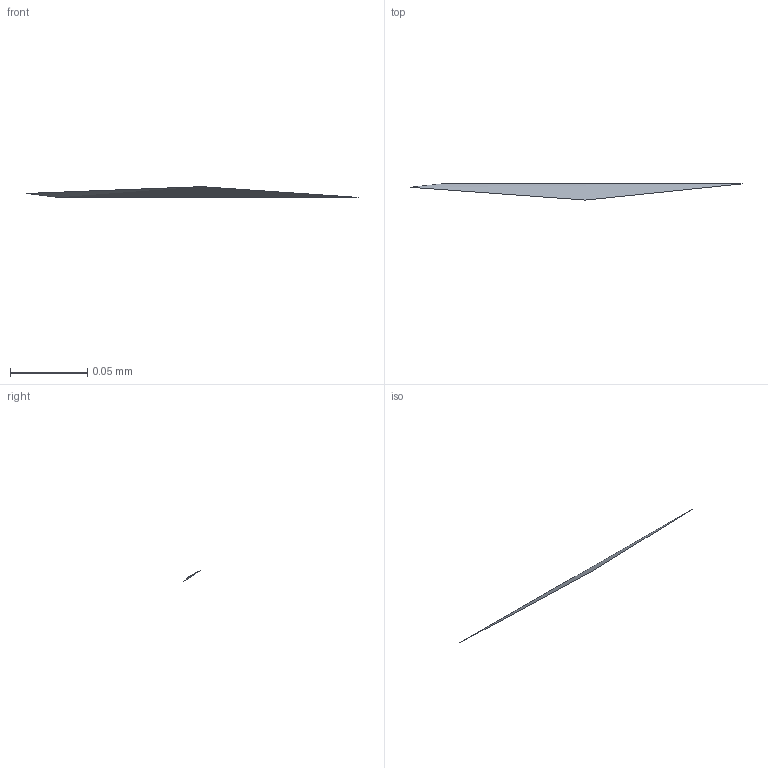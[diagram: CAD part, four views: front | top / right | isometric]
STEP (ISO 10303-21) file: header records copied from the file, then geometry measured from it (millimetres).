
FILE_DESCRIPTION(/* description */ ('STEP AP242 Edition 2','CAx-IF Rec.Pracs.---Representation and Presentation of Product Manufacturing Information (PMI)---4.0---2014-10-13','CAx-IF Rec.Pracs.---3D Tessellated Geometry---0.4---2014-09-14','2;1','CAx-IF Rec.Pracs.---User Defined Attributes---1.5---2016-08-15'),/* implementation_level */ '2;1');
FILE_NAME(/* name */ 'Assembly 1 - Part 57',/* time_stamp */ '2026-03-29T21:14:58Z',/* author */ (''),/* organization */ (''),/* preprocessor_version */ 'ST-DEVELOPER v20',/* originating_system */ 'ONSHAPE BY PTC INC, 1.212',/* authorisation */ ' ');
FILE_SCHEMA (('AP242_MANAGED_MODEL_BASED_3D_ENGINEERING_MIM_LF { 1 0 10303 442 3 1 4 }'));
Length unit declared in the file: metre
Products named in the file (1): Part 57
Bounding box: 0.21 x 0.01 x 0.01 mm (x, y, z)
Surface area: 0 mm2 (no closed solid volume)
Topology: 0 solids, 1 shells, 1 faces, 0 edges, 0 vertices
Faces by surface type: other 1
Entity records: 31 total; most frequent: DIRECTION 2, SHAPE_REPRESENTATION_RELATIONSHIP 1, TESSELLATED_SHAPE_REPRESENTATION 1, STYLED_ITEM 1, PRESENTATION_STYLE_ASSIGNMENT 1, SURFACE_STYLE_USAGE 1, SURFACE_SIDE_STYLE 1, SURFACE_STYLE_FILL_AREA 1
